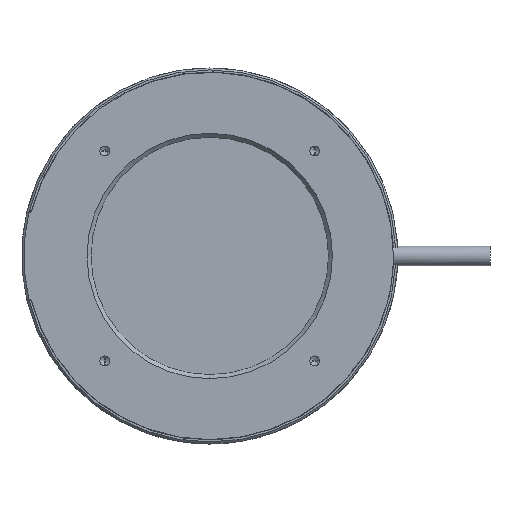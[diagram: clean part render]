
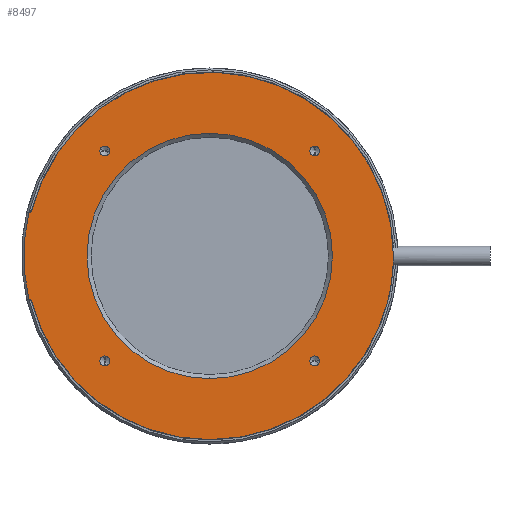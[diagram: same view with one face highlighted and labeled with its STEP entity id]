
A CAD part, top view. The second image highlights one B-rep face of the part: STEP entity #8497.
In plain terms, the highlighted planar face has unit normal (0, 0, 1).
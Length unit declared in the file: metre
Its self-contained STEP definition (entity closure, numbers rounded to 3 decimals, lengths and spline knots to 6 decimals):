
#1470=CARTESIAN_POINT('',(0.,0.,0.002));
#1471=DIRECTION('',(0.,0.,-1.));
#1472=DIRECTION('',(0.,1.,0.));
#1473=AXIS2_PLACEMENT_3D('',#1470,#1471,#1472);
#1475=CARTESIAN_POINT('',(0.,0.,0.002));
#1476=DIRECTION('',(0.,0.,-1.));
#1477=DIRECTION('',(0.,-1.,0.));
#1478=AXIS2_PLACEMENT_3D('',#1475,#1476,#1477);
#1480=CARTESIAN_POINT('',(0.026517,0.026517,0.002));
#1481=DIRECTION('',(0.,0.,-1.));
#1482=DIRECTION('',(0.,1.,0.));
#1483=AXIS2_PLACEMENT_3D('',#1480,#1481,#1482);
#1485=CARTESIAN_POINT('',(0.026517,0.026517,0.002));
#1486=DIRECTION('',(0.,0.,-1.));
#1487=DIRECTION('',(0.,-1.,0.));
#1488=AXIS2_PLACEMENT_3D('',#1485,#1486,#1487);
#1490=CARTESIAN_POINT('',(-0.026517,0.026517,0.002));
#1491=DIRECTION('',(0.,0.,-1.));
#1492=DIRECTION('',(-1.,0.,0.));
#1493=AXIS2_PLACEMENT_3D('',#1490,#1491,#1492);
#1495=CARTESIAN_POINT('',(-0.026517,0.026517,0.002));
#1496=DIRECTION('',(0.,0.,-1.));
#1497=DIRECTION('',(1.,0.,0.));
#1498=AXIS2_PLACEMENT_3D('',#1495,#1496,#1497);
#1500=CARTESIAN_POINT('',(-0.026517,-0.026517,0.002));
#1501=DIRECTION('',(0.,0.,-1.));
#1502=DIRECTION('',(0.,-1.,0.));
#1503=AXIS2_PLACEMENT_3D('',#1500,#1501,#1502);
#1505=CARTESIAN_POINT('',(-0.026517,-0.026517,0.002));
#1506=DIRECTION('',(0.,0.,-1.));
#1507=DIRECTION('',(0.,1.,0.));
#1508=AXIS2_PLACEMENT_3D('',#1505,#1506,#1507);
#1510=CARTESIAN_POINT('',(0.026517,-0.026517,0.002));
#1511=DIRECTION('',(0.,0.,-1.));
#1512=DIRECTION('',(1.,0.,0.));
#1513=AXIS2_PLACEMENT_3D('',#1510,#1511,#1512);
#1515=CARTESIAN_POINT('',(0.026517,-0.026517,0.002));
#1516=DIRECTION('',(0.,0.,-1.));
#1517=DIRECTION('',(-1.,0.,0.));
#1518=AXIS2_PLACEMENT_3D('',#1515,#1516,#1517);
#1520=CARTESIAN_POINT('',(-0.045468,0.0115,0.002));
#1521=DIRECTION('',(0.,0.,-1.));
#1522=DIRECTION('',(0.969,-0.245,0.));
#1523=AXIS2_PLACEMENT_3D('',#1520,#1521,#1522);
#1525=CARTESIAN_POINT('',(0.,0.,0.002));
#1526=DIRECTION('',(0.,0.,1.));
#1527=DIRECTION('',(1.,0.,0.));
#1528=AXIS2_PLACEMENT_3D('',#1525,#1526,#1527);
#1530=CARTESIAN_POINT('',(0.,0.,0.002));
#1531=DIRECTION('',(0.,0.,1.));
#1532=DIRECTION('',(0.969,-0.245,0.));
#1533=AXIS2_PLACEMENT_3D('',#1530,#1531,#1532);
#1535=CARTESIAN_POINT('',(0.,0.,0.002));
#1536=DIRECTION('',(0.,0.,1.));
#1537=DIRECTION('',(-0.969,-0.245,0.));
#1538=AXIS2_PLACEMENT_3D('',#1535,#1536,#1537);
#1540=CARTESIAN_POINT('',(-0.045468,-0.0115,0.002));
#1541=DIRECTION('',(0.,0.,-1.));
#1542=DIRECTION('',(0.,1.,0.));
#1543=AXIS2_PLACEMENT_3D('',#1540,#1541,#1542);
#1545=CARTESIAN_POINT('',(0.,0.,0.002));
#1546=DIRECTION('',(0.,0.,1.));
#1547=DIRECTION('',(-0.972,0.234,0.));
#1548=AXIS2_PLACEMENT_3D('',#1545,#1546,#1547);
#1662=DIRECTION('',(1.,0.,0.));
#1663=VECTOR('',#1662,0.000226);
#1664=CARTESIAN_POINT('',(-0.045695,0.011,0.002));
#1665=LINE('',#1664,#1663);
#4742=DIRECTION('',(-1.,0.,0.));
#4743=VECTOR('',#4742,0.000226);
#4744=CARTESIAN_POINT('',(-0.045468,-0.011,0.002));
#4745=LINE('',#4744,#4743);
#5122=CARTESIAN_POINT('',(-0.044983,-0.011377,0.002));
#5123=CARTESIAN_POINT('',(0.044983,-0.011377,0.002));
#5124=VERTEX_POINT('',#5122);
#5125=VERTEX_POINT('',#5123);
#5126=CARTESIAN_POINT('',(0.0464,0.,0.002));
#5127=VERTEX_POINT('',#5126);
#5128=CARTESIAN_POINT('',(-0.044983,0.011377,0.002));
#5129=VERTEX_POINT('',#5128);
#5130=CARTESIAN_POINT('',(-0.045468,-0.011,0.002));
#5131=VERTEX_POINT('',#5130);
#5132=CARTESIAN_POINT('',(-0.045695,-0.011,0.002));
#5133=VERTEX_POINT('',#5132);
#5134=CARTESIAN_POINT('',(-0.045695,0.011,0.002));
#5135=VERTEX_POINT('',#5134);
#5136=CARTESIAN_POINT('',(-0.045468,0.011,0.002));
#5137=VERTEX_POINT('',#5136);
#5138=CARTESIAN_POINT('',(0.025267,-0.026517,0.002));
#5139=CARTESIAN_POINT('',(0.027767,-0.026517,0.002));
#5140=VERTEX_POINT('',#5138);
#5141=VERTEX_POINT('',#5139);
#5142=CARTESIAN_POINT('',(-0.026517,-0.025267,0.002));
#5143=CARTESIAN_POINT('',(-0.026517,-0.027767,0.002));
#5144=VERTEX_POINT('',#5142);
#5145=VERTEX_POINT('',#5143);
#5146=CARTESIAN_POINT('',(-0.025267,0.026517,0.002));
#5147=CARTESIAN_POINT('',(-0.027767,0.026517,0.002));
#5148=VERTEX_POINT('',#5146);
#5149=VERTEX_POINT('',#5147);
#5150=CARTESIAN_POINT('',(0.026517,0.025267,0.002));
#5151=CARTESIAN_POINT('',(0.026517,0.027767,0.002));
#5152=VERTEX_POINT('',#5150);
#5153=VERTEX_POINT('',#5151);
#5154=CARTESIAN_POINT('',(0.,-0.031,0.002));
#5155=CARTESIAN_POINT('',(0.,0.031,0.002));
#5156=VERTEX_POINT('',#5154);
#5157=VERTEX_POINT('',#5155);
#8446=CARTESIAN_POINT('',(0.,0.,0.002));
#8447=DIRECTION('',(0.,0.,-1.));
#8448=DIRECTION('',(0.,1.,0.));
#8449=AXIS2_PLACEMENT_3D('',#8446,#8447,#8448);
#8450=PLANE('',#8449);
#8452=ORIENTED_EDGE('',*,*,#8451,.F.);
#8454=ORIENTED_EDGE('',*,*,#8453,.F.);
#8456=ORIENTED_EDGE('',*,*,#8455,.F.);
#8458=ORIENTED_EDGE('',*,*,#8457,.F.);
#8460=ORIENTED_EDGE('',*,*,#8459,.F.);
#8462=ORIENTED_EDGE('',*,*,#8461,.T.);
#8464=ORIENTED_EDGE('',*,*,#8463,.F.);
#8466=ORIENTED_EDGE('',*,*,#8465,.T.);
#8467=EDGE_LOOP('',(#8452,#8454,#8456,#8458,#8460,#8462,#8464,#8466));
#8468=FACE_OUTER_BOUND('',#8467,.F.);
#8470=ORIENTED_EDGE('',*,*,#8469,.F.);
#8472=ORIENTED_EDGE('',*,*,#8471,.F.);
#8473=EDGE_LOOP('',(#8470,#8472));
#8474=FACE_BOUND('',#8473,.F.);
#8476=ORIENTED_EDGE('',*,*,#8475,.F.);
#8478=ORIENTED_EDGE('',*,*,#8477,.F.);
#8479=EDGE_LOOP('',(#8476,#8478));
#8480=FACE_BOUND('',#8479,.F.);
#8482=ORIENTED_EDGE('',*,*,#8481,.F.);
#8484=ORIENTED_EDGE('',*,*,#8483,.F.);
#8485=EDGE_LOOP('',(#8482,#8484));
#8486=FACE_BOUND('',#8485,.F.);
#8488=ORIENTED_EDGE('',*,*,#8487,.F.);
#8490=ORIENTED_EDGE('',*,*,#8489,.F.);
#8491=EDGE_LOOP('',(#8488,#8490));
#8492=FACE_BOUND('',#8491,.F.);
#8493=ORIENTED_EDGE('',*,*,#8425,.F.);
#8494=ORIENTED_EDGE('',*,*,#8439,.F.);
#8495=EDGE_LOOP('',(#8493,#8494));
#8496=FACE_BOUND('',#8495,.F.);
#8497=ADVANCED_FACE('',(#8468,#8474,#8480,#8486,#8492,#8496),#8450,.F.);
#1474=CIRCLE('',#1473,0.031);
#1479=CIRCLE('',#1478,0.031);
#1484=CIRCLE('',#1483,0.00125);
#1489=CIRCLE('',#1488,0.00125);
#1494=CIRCLE('',#1493,0.00125);
#1499=CIRCLE('',#1498,0.00125);
#1504=CIRCLE('',#1503,0.00125);
#1509=CIRCLE('',#1508,0.00125);
#1514=CIRCLE('',#1513,0.00125);
#1519=CIRCLE('',#1518,0.00125);
#1524=CIRCLE('',#1523,0.0005);
#1529=CIRCLE('',#1528,0.0464);
#1534=CIRCLE('',#1533,0.0464);
#1539=CIRCLE('',#1538,0.0464);
#1544=CIRCLE('',#1543,0.0005);
#1549=CIRCLE('',#1548,0.047);
#8425=EDGE_CURVE('',#5157,#5156,#1474,.T.);
#8439=EDGE_CURVE('',#5156,#5157,#1479,.T.);
#8451=EDGE_CURVE('',#5129,#5137,#1524,.T.);
#8453=EDGE_CURVE('',#5127,#5129,#1529,.T.);
#8455=EDGE_CURVE('',#5125,#5127,#1534,.T.);
#8457=EDGE_CURVE('',#5124,#5125,#1539,.T.);
#8459=EDGE_CURVE('',#5131,#5124,#1544,.T.);
#8461=EDGE_CURVE('',#5131,#5133,#4745,.T.);
#8463=EDGE_CURVE('',#5135,#5133,#1549,.T.);
#8465=EDGE_CURVE('',#5135,#5137,#1665,.T.);
#8469=EDGE_CURVE('',#5153,#5152,#1484,.T.);
#8471=EDGE_CURVE('',#5152,#5153,#1489,.T.);
#8475=EDGE_CURVE('',#5149,#5148,#1494,.T.);
#8477=EDGE_CURVE('',#5148,#5149,#1499,.T.);
#8481=EDGE_CURVE('',#5145,#5144,#1504,.T.);
#8483=EDGE_CURVE('',#5144,#5145,#1509,.T.);
#8487=EDGE_CURVE('',#5141,#5140,#1514,.T.);
#8489=EDGE_CURVE('',#5140,#5141,#1519,.T.);
